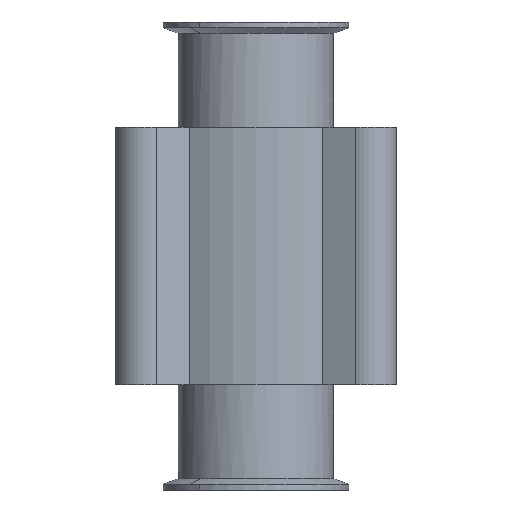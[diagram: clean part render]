
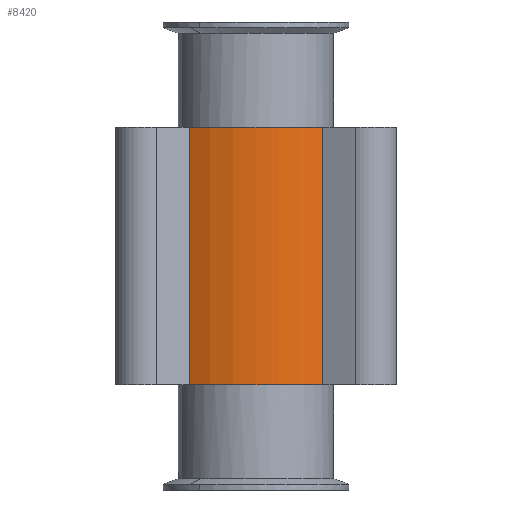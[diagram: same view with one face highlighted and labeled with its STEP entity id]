
A CAD part, front view. The second image highlights one B-rep face of the part: STEP entity #8420.
In plain terms, the highlighted cylindrical face has radius 68 mm (diameter 136 mm), a partial arc.
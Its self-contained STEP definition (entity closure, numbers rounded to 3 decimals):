
#720=CARTESIAN_POINT('',(-65.288,-113.,19.012));
#730=VERTEX_POINT('',#720);
#760=CARTESIAN_POINT('',(0.,-113.,
0.));
#770=DIRECTION('',(0.,1.,0.));
#780=DIRECTION('',(1.,0.,0.));
#790=AXIS2_PLACEMENT_3D('',#760,#770,#780);
#800=CIRCLE('',#790,68.);
#810=CARTESIAN_POINT('',(-19.012,-113.,65.288));
#820=VERTEX_POINT('',#810);
#830=EDGE_CURVE('',#730,#820,#800,.T.);
#4140=CARTESIAN_POINT('',(-19.012,13.,65.288));
#4150=VERTEX_POINT('',#4140);
#4200=CARTESIAN_POINT('',(-19.012,13.,65.288));
#4210=DIRECTION('',(0.,-1.,0.));
#4220=VECTOR('',#4210,1000.);
#4230=LINE('',#4200,#4220);
#4240=EDGE_CURVE('',#4150,#820,#4230,.T.);
#4950=CARTESIAN_POINT('',(-65.288,13.,19.012));
#4960=VERTEX_POINT('',#4950);
#4990=CARTESIAN_POINT('',(-65.288,13.,19.012));
#5000=DIRECTION('',(0.,-1.,0.));
#5010=VECTOR('',#5000,1000.);
#5020=LINE('',#4990,#5010);
#5030=EDGE_CURVE('',#4960,#730,#5020,.T.);
#8250=CARTESIAN_POINT('',(0.,13.,0.));
#8260=DIRECTION('',(0.,-1.,0.));
#8270=DIRECTION('',(0.,0.,-1.));
#8280=AXIS2_PLACEMENT_3D('',#8250,#8260,#8270);
#8290=CYLINDRICAL_SURFACE('',#8280,68.);
#8300=ORIENTED_EDGE('',*,*,#830,.T.);
#8310=ORIENTED_EDGE('',*,*,#5030,.T.);
#8320=CARTESIAN_POINT('',(0.,13.,0.));
#8330=DIRECTION('',(0.,-1.,0.));
#8340=DIRECTION('',(0.,0.,-1.));
#8350=AXIS2_PLACEMENT_3D('',#8320,#8330,#8340);
#8360=CIRCLE('',#8350,68.);
#8370=EDGE_CURVE('',#4150,#4960,#8360,.T.);
#8380=ORIENTED_EDGE('',*,*,#8370,.T.);
#8390=ORIENTED_EDGE('',*,*,#4240,.F.);
#8400=EDGE_LOOP('',(#8390,#8380,#8310,#8300));
#8410=FACE_OUTER_BOUND('',#8400,.T.);
#8420=ADVANCED_FACE('',(#8410),#8290,.T.);
